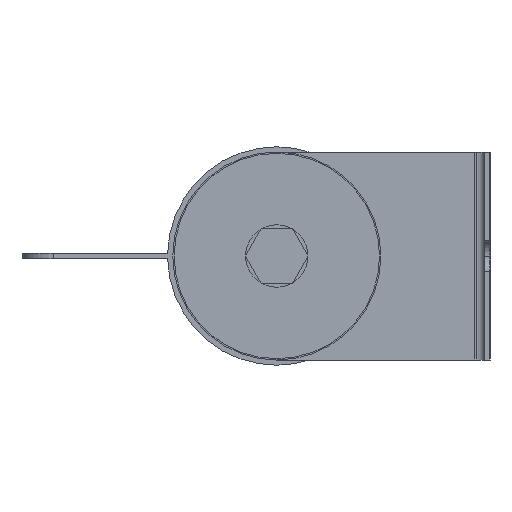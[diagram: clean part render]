
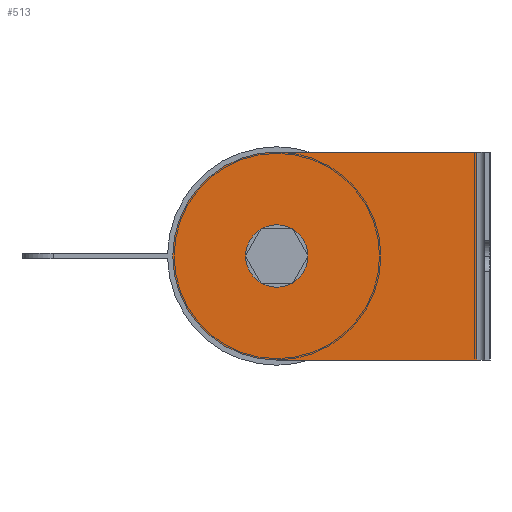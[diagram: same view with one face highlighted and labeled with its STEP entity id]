
A CAD part, left-side view. The second image highlights one B-rep face of the part: STEP entity #513.
In plain terms, the highlighted planar face has unit normal (-1, 0, 0).
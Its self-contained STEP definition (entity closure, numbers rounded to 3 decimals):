
#55 = EDGE_CURVE ( 'NONE', #1444, #2128, #963, .T. ) ;
#104 = EDGE_LOOP ( 'NONE', ( #676, #1705, #105, #434 ) ) ;
#105 = ORIENTED_EDGE ( 'NONE', *, *, #727, .T. ) ;
#178 = CARTESIAN_POINT ( 'NONE',  ( -283.5, 0., 0. ) ) ;
#219 = VECTOR ( 'NONE', #2381, 1000. ) ;
#236 = VERTEX_POINT ( 'NONE', #2363 ) ;
#245 = AXIS2_PLACEMENT_3D ( 'NONE', #2105, #347, #1893 ) ;
#347 = DIRECTION ( 'NONE',  ( -1., 0., 0. ) ) ;
#369 = EDGE_LOOP ( 'NONE', ( #1004, #2346 ) ) ;
#399 = VERTEX_POINT ( 'NONE', #2374 ) ;
#434 = ORIENTED_EDGE ( 'NONE', *, *, #2533, .T. ) ;
#458 = PLANE ( 'NONE',  #1330 ) ;
#465 = FACE_BOUND ( 'NONE', #369, .T. ) ;
#513 = ADVANCED_FACE ( 'NONE', ( #465, #937 ), #458, .T. ) ;
#519 = VERTEX_POINT ( 'NONE', #2009 ) ;
#533 = EDGE_CURVE ( 'NONE', #2128, #1444, #1027, .T. ) ;
#676 = ORIENTED_EDGE ( 'NONE', *, *, #1807, .T. ) ;
#727 = EDGE_CURVE ( 'NONE', #236, #806, #1402, .T. ) ;
#806 = VERTEX_POINT ( 'NONE', #1453 ) ;
#808 = DIRECTION ( 'NONE',  ( 0., 0., 1. ) ) ;
#894 = LINE ( 'NONE', #1738, #219 ) ;
#927 = DIRECTION ( 'NONE',  ( -1., 0., 0. ) ) ;
#937 = FACE_OUTER_BOUND ( 'NONE', #104, .T. ) ;
#944 = CARTESIAN_POINT ( 'NONE',  ( -283.5, 0., 6. ) ) ;
#963 = CIRCLE ( 'NONE', #245, 6. ) ;
#971 = DIRECTION ( 'NONE',  ( 0., 0., 1. ) ) ;
#1004 = ORIENTED_EDGE ( 'NONE', *, *, #533, .F. ) ;
#1027 = CIRCLE ( 'NONE', #2066, 6. ) ;
#1109 = LINE ( 'NONE', #2323, #1405 ) ;
#1149 = CARTESIAN_POINT ( 'NONE',  ( -283.5, 0., 0. ) ) ;
#1194 = CARTESIAN_POINT ( 'NONE',  ( -283.5, 0., 20. ) ) ;
#1292 = CARTESIAN_POINT ( 'NONE',  ( -283.5, 0., -6. ) ) ;
#1330 = AXIS2_PLACEMENT_3D ( 'NONE', #2018, #927, #2620 ) ;
#1402 = LINE ( 'NONE', #1194, #2152 ) ;
#1405 = VECTOR ( 'NONE', #2339, 1000. ) ;
#1444 = VERTEX_POINT ( 'NONE', #944 ) ;
#1453 = CARTESIAN_POINT ( 'NONE',  ( -283.5, 0., 20. ) ) ;
#1632 = DIRECTION ( 'NONE',  ( 0., 1., 0. ) ) ;
#1687 = DIRECTION ( 'NONE',  ( -1., 0., 0. ) ) ;
#1705 = ORIENTED_EDGE ( 'NONE', *, *, #2192, .T. ) ;
#1738 = CARTESIAN_POINT ( 'NONE',  ( -283.5, -38.5, 20. ) ) ;
#1807 = EDGE_CURVE ( 'NONE', #519, #399, #1109, .T. ) ;
#1843 = CIRCLE ( 'NONE', #2113, 20. ) ;
#1893 = DIRECTION ( 'NONE',  ( 0., 0., 1. ) ) ;
#2009 = CARTESIAN_POINT ( 'NONE',  ( -283.5, 0., -20. ) ) ;
#2018 = CARTESIAN_POINT ( 'NONE',  ( -283.5, 0., 0. ) ) ;
#2066 = AXIS2_PLACEMENT_3D ( 'NONE', #1149, #2674, #971 ) ;
#2105 = CARTESIAN_POINT ( 'NONE',  ( -283.5, 0., 0. ) ) ;
#2113 = AXIS2_PLACEMENT_3D ( 'NONE', #178, #1687, #808 ) ;
#2128 = VERTEX_POINT ( 'NONE', #1292 ) ;
#2152 = VECTOR ( 'NONE', #1632, 1000. ) ;
#2192 = EDGE_CURVE ( 'NONE', #399, #236, #894, .T. ) ;
#2323 = CARTESIAN_POINT ( 'NONE',  ( -283.5, 0., -20. ) ) ;
#2339 = DIRECTION ( 'NONE',  ( 0., -1., 0. ) ) ;
#2346 = ORIENTED_EDGE ( 'NONE', *, *, #55, .F. ) ;
#2363 = CARTESIAN_POINT ( 'NONE',  ( -283.5, -38.5, 20. ) ) ;
#2374 = CARTESIAN_POINT ( 'NONE',  ( -283.5, -38.5, -20. ) ) ;
#2381 = DIRECTION ( 'NONE',  ( 0., 0., 1. ) ) ;
#2533 = EDGE_CURVE ( 'NONE', #806, #519, #1843, .T. ) ;
#2620 = DIRECTION ( 'NONE',  ( 0., 0., 1. ) ) ;
#2674 = DIRECTION ( 'NONE',  ( -1., 0., 0. ) ) ;
